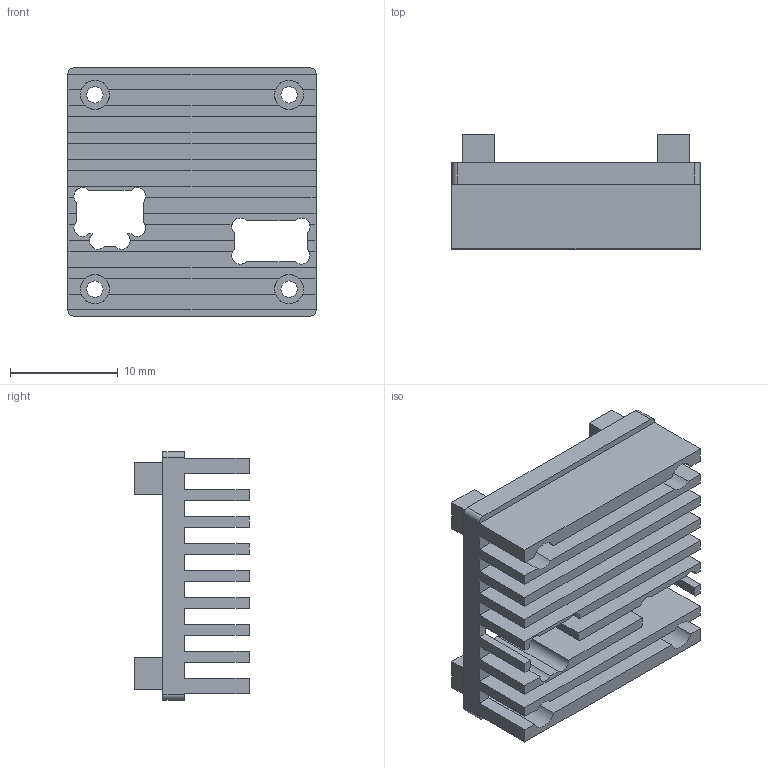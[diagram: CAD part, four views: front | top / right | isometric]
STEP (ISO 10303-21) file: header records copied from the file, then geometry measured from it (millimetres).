
FILE_DESCRIPTION(('FreeCAD Model'),'2;1');
FILE_NAME('C:/Users/Public/Documents/Altium/Projects/GAZET_IR_LED_DRIVER/data/3D_visualization/Open_Kai_files/option1_heatsink_rev2.step', '2021-04-06T13:53:21',('Author'),(''), 'Open CASCADE STEP processor 7.3','FreeCAD','Unknown');
FILE_SCHEMA(('AUTOMOTIVE_DESIGN { 1 0 10303 214 1 1 1 1 }'));
Length unit declared in the file: millimetre
Products named in the file (1): inductor_cut_option1
Bounding box: 23 x 10.6 x 23 mm (x, y, z)
Volume: 2083.1 mm3; surface area: 3982.9 mm2
Topology: 1 solids, 1 shells, 145 faces, 420 edges, 280 vertices
Faces by surface type: plane 107, cylinder 38
Entity records: 11309 total; most frequent: CARTESIAN_POINT 2006, DIRECTION 1524, LINE 964, VECTOR 964, ORIENTED_EDGE 840, PCURVE 840, DEFINITIONAL_REPRESENTATION 840, EDGE_CURVE 420
